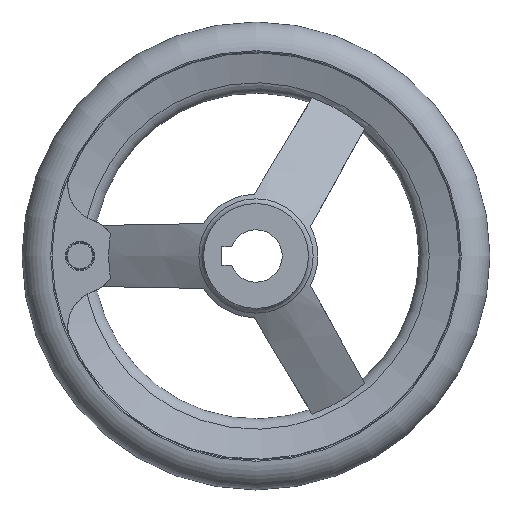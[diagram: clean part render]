
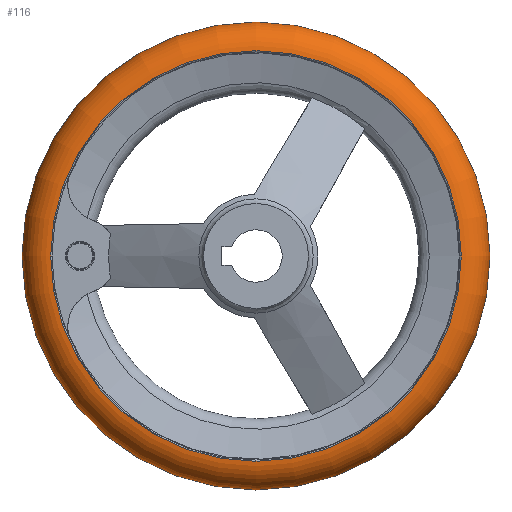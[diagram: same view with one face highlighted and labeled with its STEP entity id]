
A CAD part, left-side view. The second image highlights one B-rep face of the part: STEP entity #116.
In plain terms, the highlighted toroidal (fillet/blend) face has major radius 54.493 mm and minor radius 8.007 mm.
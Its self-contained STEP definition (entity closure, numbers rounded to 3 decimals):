
#116 = ADVANCED_FACE( '', ( #230, #231, #232 ), #233, .T. );
#230 = FACE_BOUND( '', #394, .T. );
#231 = FACE_OUTER_BOUND( '', #395, .T. );
#232 = FACE_OUTER_BOUND( '', #396, .T. );
#233 = TOROIDAL_SURFACE( '', #397, 54.493, 8.007 );
#394 = VERTEX_LOOP( '', #739 );
#395 = EDGE_LOOP( '', ( #740 ) );
#396 = EDGE_LOOP( '', ( #741 ) );
#397 = AXIS2_PLACEMENT_3D( '', #742, #743, #744 );
#739 = VERTEX_POINT( '', #910 );
#740 = ORIENTED_EDGE( '', *, *, #911, .T. );
#741 = ORIENTED_EDGE( '', *, *, #912, .F. );
#742 = CARTESIAN_POINT( '', ( 28., 0., 0. ) );
#743 = DIRECTION( '', ( 1., 0., 0. ) );
#744 = DIRECTION( '', ( 0., 1., 0. ) );
#910 = CARTESIAN_POINT( '', ( 28., 62.5, 0. ) );
#911 = EDGE_CURVE( '', #1103, #1103, #1104, .T. );
#912 = EDGE_CURVE( '', #1105, #1105, #1106, .T. );
#1103 = VERTEX_POINT( '', #1695 );
#1104 = CIRCLE( '', #1696, 54.833 );
#1105 = VERTEX_POINT( '', #1697 );
#1106 = CIRCLE( '', #1698, 54.833 );
#1695 = CARTESIAN_POINT( '', ( 20., 54.833, 0. ) );
#1696 = AXIS2_PLACEMENT_3D( '', #1871, #1872, #1873 );
#1697 = CARTESIAN_POINT( '', ( 36., 54.833, 0. ) );
#1698 = AXIS2_PLACEMENT_3D( '', #1874, #1875, #1876 );
#1871 = CARTESIAN_POINT( '', ( 20., 0., 0. ) );
#1872 = DIRECTION( '', ( 1., 0., 0. ) );
#1873 = DIRECTION( '', ( 0., 1., 0. ) );
#1874 = CARTESIAN_POINT( '', ( 36., 0., 0. ) );
#1875 = DIRECTION( '', ( 1., 0., 0. ) );
#1876 = DIRECTION( '', ( 0., 1., 0. ) );
